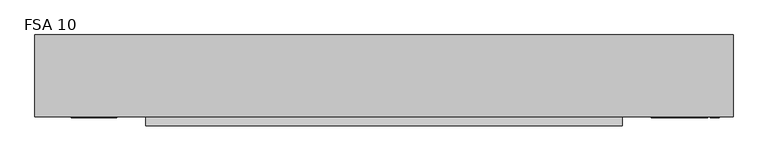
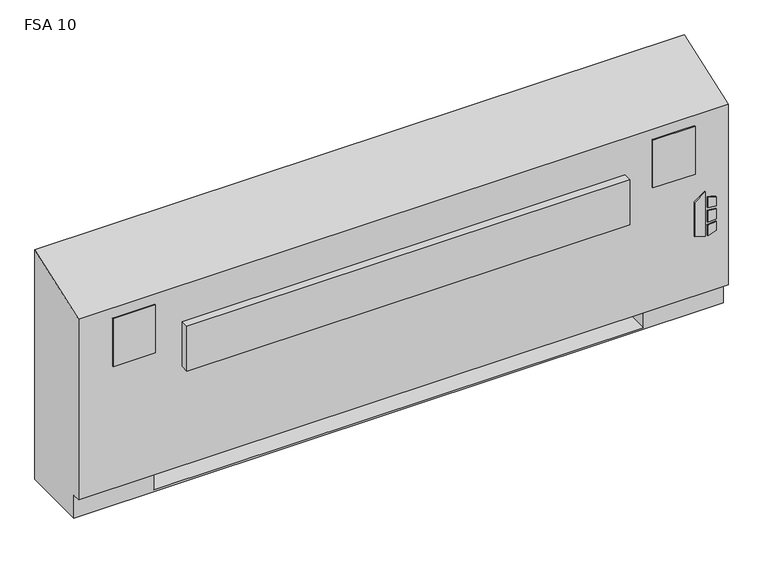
"""IFC4 building model written with IfcOpenShell, lengths in millimetres: proxy geometry, Vertical_Fan_Coil_Unit_-_FSA_-_IEC_-_2-Pipe_FS-FR_RH_2022 : FSA 10."""

from ifc_helpers import new_model, si_unit, point, frame, frame_2d, origin, place, context, project, spatial, polyline, circle_curve, trimmed, segment, composite_curve, outline, extrude, source, transform, mapped, element, save
from ifc_brep_helpers import plane_surface, revolved_surface, advanced_brep


def fsa_10_5b307017(model_context):
    return source(origin(), model_context, "Body", "SolidModel", [
        extrude(outline(polyline([(263.9480703, 1027.1868862), (254.0, 1059.3602728), (396.1709244, 1059.3602728), (373.1489183, 1027.1868862), (263.9480703, 1027.1868862)])), frame((0.0, 12.7, 0.0), z_axis=(0.0, 1.0, 0.0), x_axis=(0.0, 0.0, 1.0)), (0.0, 0.0, 1.0), 3.175),
        extrude(outline(polyline([(342.9473557, 1066.1186058), (339.7449632, 1092.2), (368.9738042, 1092.2), (377.0382193, 1066.1186058), (342.9473557, 1066.1186058)])), frame((0.0, 12.7, 0.0), z_axis=(0.0, 1.0, 0.0), x_axis=(0.0, 0.0, 1.0)), (0.0, 0.0, 1.0), 3.175),
        extrude(outline(polyline([(291.0838288, 1092.2), (287.4183279, 1066.1186058), (254.0, 1066.1186058), (262.6342372, 1092.2), (291.0838288, 1092.2)])), frame((0.0, 12.7, 0.0), z_axis=(0.0, 1.0, 0.0), x_axis=(0.0, 0.0, 1.0)), (0.0, 0.0, 1.0), 3.175),
        extrude(outline(polyline([(330.3989903, 1092.2), (332.6808166, 1066.1186058), (296.7432681, 1066.1186058), (299.4845331, 1092.2), (330.3989903, 1092.2)])), frame((0.0, 12.7, 0.0), z_axis=(0.0, 1.0, 0.0), x_axis=(0.0, 0.0, 1.0)), (0.0, 0.0, 1.0), 3.175),
        extrude(outline(polyline([(-704.85, 81.534), (-704.85, 223.266), (-584.2, 223.266), (-584.2, 81.534), (-704.85, 81.534)])), frame((0.0, 0.0, 327.025), z_axis=(0.0, 0.0, 1.0), x_axis=(1.0, 0.0, 0.0)), (0.0, 0.0, 1.0), 260.35),
        extrude(outline(polyline([(-596.9, 12.7), (-723.9, 12.7), (-723.9, 15.875), (-596.9, 15.875), (-596.9, 12.7)])), frame((0.0, 0.0, 463.55), z_axis=(0.0, 0.0, 1.0), x_axis=(1.0, 0.0, 0.0)), (0.0, 0.0, 1.0), 152.4),
        extrude(outline(polyline([(1028.7, 12.7), (901.7, 12.7), (901.7, 15.875), (1028.7, 15.875), (1028.7, 12.7)])), frame((0.0, 0.0, 463.55), z_axis=(0.0, 0.0, 1.0), x_axis=(1.0, 0.0, 0.0)), (0.0, 0.0, 1.0), 152.4),
        extrude(outline(composite_curve([segment(trimmed(circle_curve(frame_2d((952.5, 130.175)), 9.525), [point((942.975, 130.175))], [point((962.025, 130.175))], False, "CARTESIAN"), True, "CONTINUOUS"), segment(trimmed(circle_curve(frame_2d((952.5, 130.175)), 9.525), [point((962.025, 130.175))], [point((942.975, 130.175))], False, "CARTESIAN"), True, "CONTINUOUS")], self_intersect=False)), frame((0.0, 0.0, 101.6), z_axis=(0.0, 0.0, 1.0), x_axis=(1.0, 0.0, 0.0)), (0.0, 0.0, 1.0), 25.4),
        extrude(outline(polyline([(1054.1, 196.85), (1054.1, 63.5), (889.0, 63.5), (889.0, 196.85), (1054.1, 196.85)])), frame((0.0, 0.0, 127.0), z_axis=(0.0, 0.0, 1.0), x_axis=(1.0, 0.0, 0.0)), (0.0, 0.0, 1.0), 50.8),
        extrude(outline(polyline([(819.15, -9.525), (-514.35, -9.525), (-514.35, 15.875), (819.15, 15.875), (819.15, -9.525)])), frame((0.0, 0.0, 389.3009245), z_axis=(0.0, 0.0, 1.0), x_axis=(1.0, 0.0, 0.0)), (0.0, 0.0, 1.0), 142.875),
        extrude(outline(composite_curve([segment(trimmed(circle_curve(frame_2d((109.347, 456.819)), 7.9375), [point((109.347, 464.7565))], [point((109.347, 448.8815))], False, "CARTESIAN"), True, "CONTINUOUS"), segment(trimmed(circle_curve(frame_2d((109.347, 456.819)), 7.9375), [point((109.347, 448.8815))], [point((109.347, 464.7565))], False, "CARTESIAN"), True, "CONTINUOUS")], self_intersect=False)), frame((889.0, 0.0, 0.0), z_axis=(1.0, 0.0, 0.0), x_axis=(0.0, 1.0, 0.0)), (0.0, 0.0, 1.0), 50.8),
        extrude(outline(composite_curve([segment(trimmed(circle_curve(frame_2d((157.4546, 429.4632)), 7.9375), [point((157.4546, 437.4007))], [point((157.4546, 421.5257))], False, "CARTESIAN"), True, "CONTINUOUS"), segment(trimmed(circle_curve(frame_2d((157.4546, 429.4632)), 7.9375), [point((157.4546, 421.5257))], [point((157.4546, 437.4007))], False, "CARTESIAN"), True, "CONTINUOUS")], self_intersect=False)), frame((889.0, 0.0, 0.0), z_axis=(1.0, 0.0, 0.0), x_axis=(0.0, 1.0, 0.0)), (0.0, 0.0, 1.0), 50.8),
        advanced_brep(
        [(-825.5, 244.475, 0.0), (1130.3, 244.475, 0.0), (1130.3, 41.275, 0.0), (-825.5, 41.275, 0.0), (-825.5, 244.475, 730.25), (1130.3, 244.475, 730.25), (889.0, 244.475, 73.025), (1117.6, 244.475, 73.025), (1117.6, 244.475, 654.05), (889.0, 244.475, 654.05), (889.0, 244.475, 414.8650565), (917.575, 244.475, 414.8650565), (917.575, 244.475, 385.2349435), (889.0, 244.475, 385.2349435), (889.0, 244.475, 287.3375), (917.575, 244.475, 287.3375), (917.575, 244.475, 258.7625), (889.0, 244.475, 258.7625), (889.0, 244.475, 141.2875), (917.575, 244.475, 141.2875), (917.575, 244.475, 112.7125), (889.0, 244.475, 112.7125), (-584.2, 244.475, 654.05), (-812.8, 244.475, 654.05), (-812.8, 244.475, 73.025), (-584.2, 244.475, 73.025), (-584.2, 244.475, 112.7125), (-612.775, 244.475, 112.7125), (-612.775, 244.475, 141.2875), (-584.2, 244.475, 141.2875), (-584.2, 244.475, 258.7625), (-612.775, 244.475, 258.7625), (-612.775, 244.475, 287.3375), (-584.2, 244.475, 287.3375), (-584.2, 244.475, 385.2349435), (-612.775, 244.475, 385.2349435), (-612.775, 244.475, 414.8650565), (-584.2, 244.475, 414.8650565), (907.2626, 244.475, 127.0), (896.1374, 244.475, 127.0), (907.2626, 244.475, 400.05), (896.1374, 244.475, 400.05), (907.2626, 244.475, 273.05), (896.1374, 244.475, 273.05), (-591.3374, 244.475, 127.0), (-602.4626, 244.475, 127.0), (-591.3374, 244.475, 273.05), (-602.4626, 244.475, 273.05), (-591.3374, 244.475, 400.05), (-602.4626, 244.475, 400.05), (-825.5, 41.275, 73.025), (-825.5, 15.875, 73.025), (-825.5, 15.875, 647.7), (1130.3, 15.875, 73.025), (1130.3, 15.875, 647.7), (1130.3, 41.275, 73.025), (-584.2, 41.275, 73.025), (-584.2, 225.425, 73.025), (889.0, 225.425, 73.025), (889.0, 41.275, 73.025), (889.0, 41.275, 6.35), (-584.2, 41.275, 6.35), (889.0, 41.275, 654.05), (1117.6, 41.275, 654.05), (1117.6, 41.275, 73.025), (889.0, 41.275, 73.025), (-584.2, 41.275, 654.05), (-584.2, 41.275, 73.025), (-812.8, 41.275, 73.025), (-812.8, 41.275, 654.05), (889.0, 225.425, 73.025), (889.0, 238.125, 112.7125), (889.0, 238.125, 141.2875), (889.0, 238.125, 258.7625), (889.0, 238.125, 287.3375), (889.0, 238.125, 385.2349435), (889.0, 238.125, 414.8650565), (-584.2, 225.425, 73.025), (-584.2, 238.125, 414.8650565), (-584.2, 238.125, 385.2349435), (-584.2, 238.125, 287.3375), (-584.2, 238.125, 258.7625), (-584.2, 238.125, 141.2875), (-584.2, 238.125, 112.7125), (-584.2, 225.425, 6.35), (889.0, 225.425, 6.35), (917.575, 238.125, 112.7125), (917.575, 238.125, 141.2875), (896.1374, 238.125, 127.0), (907.2626, 238.125, 127.0), (917.575, 238.125, 258.7625), (917.575, 238.125, 287.3375), (896.1374, 238.125, 273.05), (907.2626, 238.125, 273.05), (917.575, 238.125, 385.2349435), (917.575, 238.125, 414.8650565), (896.1374, 238.125, 400.05), (907.2626, 238.125, 400.05), (-612.775, 238.125, 141.2875), (-612.775, 238.125, 112.7125), (-602.4626, 238.125, 127.0), (-591.3374, 238.125, 127.0), (-612.775, 238.125, 287.3375), (-612.775, 238.125, 258.7625), (-602.4626, 238.125, 273.05), (-591.3374, 238.125, 273.05), (-612.775, 238.125, 414.8650565), (-612.775, 238.125, 385.2349435), (-602.4626, 238.125, 400.05), (-591.3374, 238.125, 400.05)],
        [
            (0, 1),
            (1, 2),
            (2, 3),
            (3, 0),
            (0, 4),
            (4, 5),
            (5, 1),
            (6, 7),
            (7, 8),
            (8, 9),
            (9, 10),
            (10, 11),
            (11, 12),
            (12, 13),
            (13, 14),
            (14, 15),
            (15, 16),
            (16, 17),
            (17, 18),
            (18, 19),
            (19, 20),
            (20, 21),
            (21, 6),
            (22, 23),
            (23, 24),
            (24, 25),
            (25, 26),
            (26, 27),
            (27, 28),
            (28, 29),
            (29, 30),
            (30, 31),
            (31, 32),
            (32, 33),
            (33, 34),
            (34, 35),
            (35, 36),
            (36, 37),
            (37, 22),
            (38, 39, circle_curve(frame((901.7, 244.475, 127.0), z_axis=(0.0, -1.0, 0.0), x_axis=(-1.0, 0.0, 0.0)), 5.5626)),
            (39, 38, circle_curve(frame((901.7, 244.475, 127.0), z_axis=(0.0, -1.0, 0.0), x_axis=(-1.0, 0.0, 0.0)), 5.5626)),
            (40, 41, circle_curve(frame((901.7, 244.475, 400.05), z_axis=(0.0, -1.0, 0.0), x_axis=(-1.0, 0.0, 0.0)), 5.5626)),
            (41, 40, circle_curve(frame((901.7, 244.475, 400.05), z_axis=(0.0, -1.0, 0.0), x_axis=(-1.0, 0.0, 0.0)), 5.5626)),
            (42, 43, circle_curve(frame((901.7, 244.475, 273.05), z_axis=(0.0, -1.0, 0.0), x_axis=(-1.0, 0.0, 0.0)), 5.5626)),
            (43, 42, circle_curve(frame((901.7, 244.475, 273.05), z_axis=(0.0, -1.0, 0.0), x_axis=(-1.0, 0.0, 0.0)), 5.5626)),
            (44, 45, circle_curve(frame((-596.9, 244.475, 127.0), z_axis=(0.0, -1.0, 0.0), x_axis=(-1.0, 0.0, 0.0)), 5.5626)),
            (45, 44, circle_curve(frame((-596.9, 244.475, 127.0), z_axis=(0.0, -1.0, 0.0), x_axis=(-1.0, 0.0, 0.0)), 5.5626)),
            (46, 47, circle_curve(frame((-596.9, 244.475, 273.05), z_axis=(0.0, -1.0, 0.0), x_axis=(-1.0, 0.0, 0.0)), 5.5626)),
            (47, 46, circle_curve(frame((-596.9, 244.475, 273.05), z_axis=(0.0, -1.0, 0.0), x_axis=(-1.0, 0.0, 0.0)), 5.5626)),
            (48, 49, circle_curve(frame((-596.9, 244.475, 400.05), z_axis=(0.0, -1.0, 0.0), x_axis=(-1.0, 0.0, 0.0)), 5.5626)),
            (49, 48, circle_curve(frame((-596.9, 244.475, 400.05), z_axis=(0.0, -1.0, 0.0), x_axis=(-1.0, 0.0, 0.0)), 5.5626)),
            (3, 50),
            (50, 51),
            (51, 52),
            (52, 4),
            (51, 53),
            (53, 54),
            (54, 52),
            (5, 54),
            (53, 55),
            (55, 2),
            (50, 56),
            (56, 57),
            (57, 58),
            (58, 59),
            (59, 55),
            (59, 60),
            (60, 61),
            (61, 56),
            (62, 63),
            (63, 64),
            (64, 65),
            (65, 62),
            (66, 67),
            (67, 68),
            (68, 69),
            (69, 66),
            (65, 70),
            (70, 6),
            (21, 71),
            (71, 72),
            (72, 18),
            (17, 73),
            (73, 74),
            (74, 14),
            (13, 75),
            (75, 76),
            (76, 10),
            (9, 62),
            (64, 7),
            (63, 8),
            (69, 23),
            (22, 66),
            (68, 24),
            (67, 77),
            (77, 25),
            (37, 78),
            (78, 79),
            (79, 34),
            (33, 80),
            (80, 81),
            (81, 30),
            (29, 82),
            (82, 83),
            (83, 26),
            (57, 84),
            (84, 85),
            (85, 58),
            (85, 60),
            (84, 61),
            (71, 86),
            (86, 87),
            (87, 72),
            (88, 89, circle_curve(frame((901.7, 238.125, 127.0), z_axis=(0.0, 1.0, 0.0), x_axis=(-1.0, 0.0, 0.0)), 5.5626)),
            (89, 88, circle_curve(frame((901.7, 238.125, 127.0), z_axis=(0.0, 1.0, 0.0), x_axis=(-1.0, 0.0, 0.0)), 5.5626)),
            (73, 90),
            (90, 91),
            (91, 74),
            (92, 93, circle_curve(frame((901.7, 238.125, 273.05), z_axis=(0.0, 1.0, 0.0), x_axis=(-1.0, 0.0, 0.0)), 5.5626)),
            (93, 92, circle_curve(frame((901.7, 238.125, 273.05), z_axis=(0.0, 1.0, 0.0), x_axis=(-1.0, 0.0, 0.0)), 5.5626)),
            (75, 94),
            (94, 95),
            (95, 76),
            (96, 97, circle_curve(frame((901.7, 238.125, 400.05), z_axis=(0.0, 1.0, 0.0), x_axis=(-1.0, 0.0, 0.0)), 5.5626)),
            (97, 96, circle_curve(frame((901.7, 238.125, 400.05), z_axis=(0.0, 1.0, 0.0), x_axis=(-1.0, 0.0, 0.0)), 5.5626)),
            (98, 99),
            (99, 83),
            (82, 98),
            (100, 101, circle_curve(frame((-596.9, 238.125, 127.0), z_axis=(0.0, 1.0, 0.0), x_axis=(-1.0, 0.0, 0.0)), 5.5626)),
            (101, 100, circle_curve(frame((-596.9, 238.125, 127.0), z_axis=(0.0, 1.0, 0.0), x_axis=(-1.0, 0.0, 0.0)), 5.5626)),
            (102, 103),
            (103, 81),
            (80, 102),
            (104, 105, circle_curve(frame((-596.9, 238.125, 273.05), z_axis=(0.0, 1.0, 0.0), x_axis=(-1.0, 0.0, 0.0)), 5.5626)),
            (105, 104, circle_curve(frame((-596.9, 238.125, 273.05), z_axis=(0.0, 1.0, 0.0), x_axis=(-1.0, 0.0, 0.0)), 5.5626)),
            (106, 107),
            (107, 79),
            (78, 106),
            (108, 109, circle_curve(frame((-596.9, 238.125, 400.05), z_axis=(0.0, 1.0, 0.0), x_axis=(-1.0, 0.0, 0.0)), 5.5626)),
            (109, 108, circle_curve(frame((-596.9, 238.125, 400.05), z_axis=(0.0, 1.0, 0.0), x_axis=(-1.0, 0.0, 0.0)), 5.5626)),
            (87, 19),
            (86, 20),
            (91, 15),
            (90, 16),
            (95, 11),
            (94, 12),
            (28, 98),
            (99, 27),
            (32, 102),
            (103, 31),
            (36, 106),
            (107, 35),
            (88, 39),
            (38, 89),
            (96, 41),
            (40, 97),
            (92, 43),
            (42, 93),
            (100, 45),
            (44, 101),
            (104, 47),
            (46, 105),
            (108, 49),
            (48, 109),
        ],
        [
            plane_surface(frame((-825.5, 244.475, 0.0), z_axis=(0.0, 0.0, -1.0), x_axis=(1.0, 0.0, 0.0))),
            plane_surface(frame((1130.3, 244.475, 730.25), z_axis=(0.0, 1.0, 0.0), x_axis=(0.0, 0.0, -1.0))),
            plane_surface(frame((-825.5, 244.475, 730.25), z_axis=(-1.0, 0.0, 0.0), x_axis=(0.0, 0.0, -1.0))),
            plane_surface(frame((-825.5, 15.875, 730.25), z_axis=(0.0, -1.0, 0.0), x_axis=(0.0, 0.0, -1.0))),
            plane_surface(frame((1130.3, 15.875, 730.25), z_axis=(1.0, 0.0, 0.0), x_axis=(0.0, 0.0, -1.0))),
            plane_surface(frame((-825.5, 15.875, 73.025), z_axis=(0.0, 0.0, -1.0), x_axis=(1.0, 0.0, 0.0))),
            plane_surface(frame((-825.5, 41.275, 73.025), z_axis=(0.0, -1.0, 0.0), x_axis=(1.0, 0.0, 0.0))),
            plane_surface(frame((889.0, 41.275, 654.05), z_axis=(0.0, 1.0, 0.0), x_axis=(0.0, 0.0, -1.0))),
            plane_surface(frame((889.0, 41.275, 654.05), z_axis=(1.0, 0.0, 0.0), x_axis=(0.0, 1.0, 0.0))),
            plane_surface(frame((889.0, 41.275, 73.025), z_axis=(0.0, 0.0, 1.0), x_axis=(0.0, 1.0, 0.0))),
            plane_surface(frame((1117.6, 41.275, 73.025), z_axis=(-1.0, 0.0, 0.0), x_axis=(0.0, 1.0, 0.0))),
            plane_surface(frame((1117.6, 41.275, 654.05), z_axis=(0.0, 0.0, -1.0), x_axis=(0.0, 1.0, 0.0))),
            plane_surface(frame((-584.2, 41.275, 654.05), z_axis=(0.0, 0.0, -1.0), x_axis=(0.0, 1.0, 0.0))),
            plane_surface(frame((-812.8, 41.275, 654.05), z_axis=(1.0, 0.0, 0.0), x_axis=(0.0, 1.0, 0.0))),
            plane_surface(frame((-812.8, 41.275, 73.025), z_axis=(0.0, 0.0, 1.0), x_axis=(0.0, 1.0, 0.0))),
            plane_surface(frame((-584.2, 41.275, 73.025), z_axis=(-1.0, 0.0, 0.0), x_axis=(0.0, 1.0, 0.0))),
            plane_surface(frame((889.0, 225.425, 73.025), z_axis=(0.0, -1.0, 0.0), x_axis=(0.0, 0.0, -1.0))),
            plane_surface(frame((889.0, 225.425, 73.025), z_axis=(-1.0, 0.0, 0.0), x_axis=(0.0, -1.0, 0.0))),
            plane_surface(frame((889.0, 225.425, 6.35), z_axis=(0.0, 0.0, 1.0), x_axis=(0.0, -1.0, 0.0))),
            plane_surface(frame((-584.2, 225.425, 6.35), z_axis=(1.0, 0.0, 0.0), x_axis=(0.0, -1.0, 0.0))),
            plane_surface(frame((917.575, 238.125, 141.2875), z_axis=(0.0, -1.0, 0.0), x_axis=(-1.0, 0.0, 0.0))),
            plane_surface(frame((889.0, 244.475, 141.2875), z_axis=(0.0, 0.0, 1.0), x_axis=(0.0, -1.0, 0.0))),
            plane_surface(frame((917.575, 244.475, 141.2875), z_axis=(1.0, 0.0, 0.0), x_axis=(0.0, -1.0, 0.0))),
            plane_surface(frame((917.575, 244.475, 112.7125), z_axis=(0.0, 0.0, -1.0), x_axis=(0.0, -1.0, 0.0))),
            plane_surface(frame((889.0, 244.475, 287.3375), z_axis=(0.0, 0.0, 1.0), x_axis=(0.0, -1.0, 0.0))),
            plane_surface(frame((917.575, 244.475, 287.3375), z_axis=(1.0, 0.0, 0.0), x_axis=(0.0, -1.0, 0.0))),
            plane_surface(frame((917.575, 244.475, 258.7625), z_axis=(0.0, 0.0, -1.0), x_axis=(0.0, -1.0, 0.0))),
            plane_surface(frame((889.0, 244.475, 414.8650565), z_axis=(0.0, 0.0, 1.0), x_axis=(0.0, -1.0, 0.0))),
            plane_surface(frame((917.575, 244.475, 414.8650565), z_axis=(1.0, 0.0, 0.0), x_axis=(0.0, -1.0, 0.0))),
            plane_surface(frame((917.575, 244.475, 385.2349435), z_axis=(0.0, 0.0, -1.0), x_axis=(0.0, -1.0, 0.0))),
            plane_surface(frame((-612.775, 244.475, 141.2875), z_axis=(0.0, 0.0, 1.0), x_axis=(0.0, -1.0, 0.0))),
            plane_surface(frame((-584.2, 244.475, 112.7125), z_axis=(0.0, 0.0, -1.0), x_axis=(0.0, -1.0, 0.0))),
            plane_surface(frame((-612.775, 244.475, 112.7125), z_axis=(-1.0, 0.0, 0.0), x_axis=(0.0, -1.0, 0.0))),
            plane_surface(frame((-612.775, 244.475, 287.3375), z_axis=(0.0, 0.0, 1.0), x_axis=(0.0, -1.0, 0.0))),
            plane_surface(frame((-584.2, 244.475, 258.7625), z_axis=(0.0, 0.0, -1.0), x_axis=(0.0, -1.0, 0.0))),
            plane_surface(frame((-612.775, 244.475, 258.7625), z_axis=(-1.0, 0.0, 0.0), x_axis=(0.0, -1.0, 0.0))),
            plane_surface(frame((-612.775, 244.475, 414.8650565), z_axis=(0.0, 0.0, 1.0), x_axis=(0.0, -1.0, 0.0))),
            plane_surface(frame((-584.2, 244.475, 385.2349435), z_axis=(0.0, 0.0, -1.0), x_axis=(0.0, -1.0, 0.0))),
            plane_surface(frame((-612.775, 244.475, 385.2349435), z_axis=(-1.0, 0.0, 0.0), x_axis=(0.0, -1.0, 0.0))),
            revolved_surface(polyline([(896.1374000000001, 238.125, 127.0), (896.1374000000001, 244.475, 127.0)]), (901.7, 244.475, 127.0), (0.0, -1.0, 0.0)),
            revolved_surface(polyline([(896.1374000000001, 238.125, 400.05), (896.1374000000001, 244.475, 400.05)]), (901.7, 244.475, 400.05), (0.0, -1.0, 0.0)),
            revolved_surface(polyline([(896.1374000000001, 238.125, 273.05), (896.1374000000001, 244.475, 273.05)]), (901.7, 244.475, 273.05), (0.0, -1.0, 0.0)),
            revolved_surface(polyline([(-602.4626, 238.125, 127.0), (-602.4626, 244.475, 127.0)]), (-596.9, 244.475, 127.0), (0.0, -1.0, 0.0)),
            revolved_surface(polyline([(-602.4626, 238.125, 273.05), (-602.4626, 244.475, 273.05)]), (-596.9, 244.475, 273.05), (0.0, -1.0, 0.0)),
            revolved_surface(polyline([(-602.4626, 238.125, 400.05), (-602.4626, 244.475, 400.05)]), (-596.9, 244.475, 400.05), (0.0, -1.0, 0.0)),
            plane_surface(frame((-825.5, 244.475, 730.25), z_axis=(0.0, -0.33964446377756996, 0.9405538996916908), x_axis=(1.0, 0.0, 0.0))),
        ],
        [
            (0, [[1, 2, 3, 4]]),
            (1, [[-1, 5, 6, 7], [8, 9, 10, 11, 12, 13, 14, 15, 16, 17, 18, 19, 20, 21, 22, 23], [24, 25, 26, 27, 28, 29, 30, 31, 32, 33, 34, 35, 36, 37, 38, 39], [40, 41], [42, 43], [44, 45], [46, 47], [48, 49], [50, 51]]),
            (2, [[-5, -4, 52, 53, 54, 55]]),
            (3, [[56, 57, 58, -54]]),
            (4, [[-7, 59, -57, 60, 61, -2]]),
            (5, [[-53, 62, 63, 64, 65, 66, -60, -56]]),
            (6, [[-3, -61, -66, 67, 68, 69, -62, -52]]),
            (7, [[70, 71, 72, 73]]),
            (7, [[74, 75, 76, 77]]),
            (8, [[-73, 78, 79, -23, 80, 81, 82, -19, 83, 84, 85, -15, 86, 87, 88, -11, 89]]),
            (9, [[-72, 90, -8, -79, -78]]),
            (10, [[-71, 91, -9, -90]]),
            (11, [[-70, -89, -10, -91]]),
            (12, [[-77, 92, -24, 93]]),
            (13, [[-76, 94, -25, -92]]),
            (14, [[-75, 95, 96, -26, -94]]),
            (15, [[-74, -93, -39, 97, 98, 99, -35, 100, 101, 102, -31, 103, 104, 105, -27, -96, -95]]),
            (16, [[-64, 106, 107, 108]]),
            (17, [[-108, 109, -67, -65]]),
            (18, [[-107, 110, -68, -109]]),
            (19, [[-106, -63, -69, -110]]),
            (20, [[111, 112, 113, -81], [114, 115]]),
            (20, [[116, 117, 118, -84], [119, 120]]),
            (20, [[121, 122, 123, -87], [124, 125]]),
            (20, [[126, 127, -104, 128], [129, 130]]),
            (20, [[131, 132, -101, 133], [134, 135]]),
            (20, [[136, 137, -98, 138], [139, 140]]),
            (21, [[-113, 141, -20, -82]]),
            (22, [[-112, 142, -21, -141]]),
            (23, [[-111, -80, -22, -142]]),
            (24, [[-118, 143, -16, -85]]),
            (25, [[-117, 144, -17, -143]]),
            (26, [[-116, -83, -18, -144]]),
            (27, [[-123, 145, -12, -88]]),
            (28, [[-122, 146, -13, -145]]),
            (29, [[-121, -86, -14, -146]]),
            (30, [[-128, -103, -30, 147]]),
            (31, [[-127, 148, -28, -105]]),
            (32, [[-126, -147, -29, -148]]),
            (33, [[-133, -100, -34, 149]]),
            (34, [[-132, 150, -32, -102]]),
            (35, [[-131, -149, -33, -150]]),
            (36, [[-138, -97, -38, 151]]),
            (37, [[-137, 152, -36, -99]]),
            (38, [[-136, -151, -37, -152]]),
            (39, [[153, -40, 154, -114]]),
            (39, [[-153, -115, -154, -41]]),
            (40, [[155, -42, 156, -124]]),
            (40, [[-155, -125, -156, -43]]),
            (41, [[157, -44, 158, -119]]),
            (41, [[-157, -120, -158, -45]]),
            (42, [[159, -46, 160, -129]]),
            (42, [[-159, -130, -160, -47]]),
            (43, [[161, -48, 162, -134]]),
            (43, [[-161, -135, -162, -49]]),
            (44, [[163, -50, 164, -139]]),
            (44, [[-163, -140, -164, -51]]),
            (45, [[-6, -55, -58, -59]]),
        ],
    ),
    ])


if __name__ == "__main__":
    model = new_model("IFC4")
    model_context = context("Model", 3, world=origin())
    ifc_project = project(units=[si_unit("LENGTHUNIT", "METRE", prefix="MILLI")], contexts=[model_context])
    site = spatial("IfcSite", under=ifc_project)
    building = spatial("IfcBuilding", under=site)
    placement = place(None, origin())
    fsa_10_shape = fsa_10_5b307017(model_context)
    element("IfcBuildingElementProxy", 1, Name="Vertical_Fan_Coil_Unit_-_FSA_-_IEC_-_2-Pipe_FS-FR_RH_2022 : FSA 10", ObjectType="Vertical_Fan_Coil_Unit_-_FSA_-_IEC_-_2-Pipe_FS-FR_RH_2022 : FSA 10", at=placement, inside=building, context=model_context, shape_type="MappedRepresentation", body=[
        mapped(fsa_10_shape, transform((0.0, 0.0, 0.0), x_axis=(1.0, 0.0, 0.0), y_axis=(0.0, 1.0, 0.0), z_axis=(0.0, 0.0, 1.0))),
    ])
    save(model, "model.ifc")
